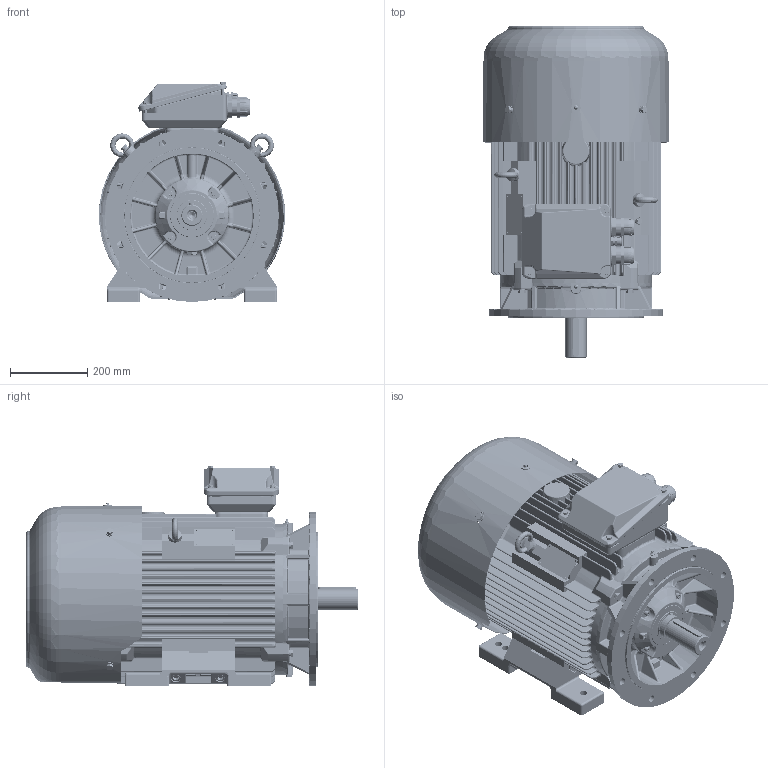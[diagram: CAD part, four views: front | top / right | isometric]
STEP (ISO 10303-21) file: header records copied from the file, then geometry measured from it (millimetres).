
FILE_DESCRIPTION(/* description */ ('Unknown'),/* implementation_level */ '2;1');
FILE_NAME(/* name */ 'SIEL225M2-K',/* time_stamp */ '2021-12-28T13:37:11+01:00',/* author */ ('Unknown'),/* organization */ ('Unknown'),/* preprocessor_version */ 'ST-DEVELOPER v16.7',/* originating_system */ 'DEX',/* authorisation */ $);
FILE_SCHEMA (('AP242_MANAGED_MODEL_BASED_3D_ENGINEERING_MIM_LF { 1 0 10303 442 1 1 4 }','AUTOMOTIVE_DESIGN {1 0 10303 214 3 1 1}'));
Products named in the file (1): SIEL225M2-K
Bounding box: 482.33 x 860 x 570.4 mm (x, y, z)
Volume: 18567745.9 mm3; surface area: 4923690.6 mm2
Topology: 1 solids, 26 shells, 9684 faces, 25834 edges, 15996 vertices
Faces by surface type: plane 4842, cylinder 2356, bspline 1157, torus 750, cone 315, sphere 264
Full cylindrical faces by diameter (mm): 1.5 x2, 3 x2, 3.242 x2, 3.5 x4, 4 x2, 4.134 x2, 5 x2, 6 x6, 6.466 x5, 6.647 x12, 8 x15, 8.16 x5, 8.36 x2, 8.376 x7, 8.917 x2, 9 x9, 9.091 x1, 9.853 x4, 10 x23, 10.106 x8, 10.5 x4, 11 x1, 11.63 x5, 12 x8, 13 x7, 13.546 x4, 13.835 x4, 14 x10, 14.376 x9, 14.63 x5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
Entity records: 387460 total; most frequent: CARTESIAN_POINT 84870, ORIENTED_EDGE 49570, DIRECTION 46730, EDGE_CURVE 24785, AXIS2_PLACEMENT_3D 15998, VERTEX_POINT 15680, LINE 14734, VECTOR 14734
